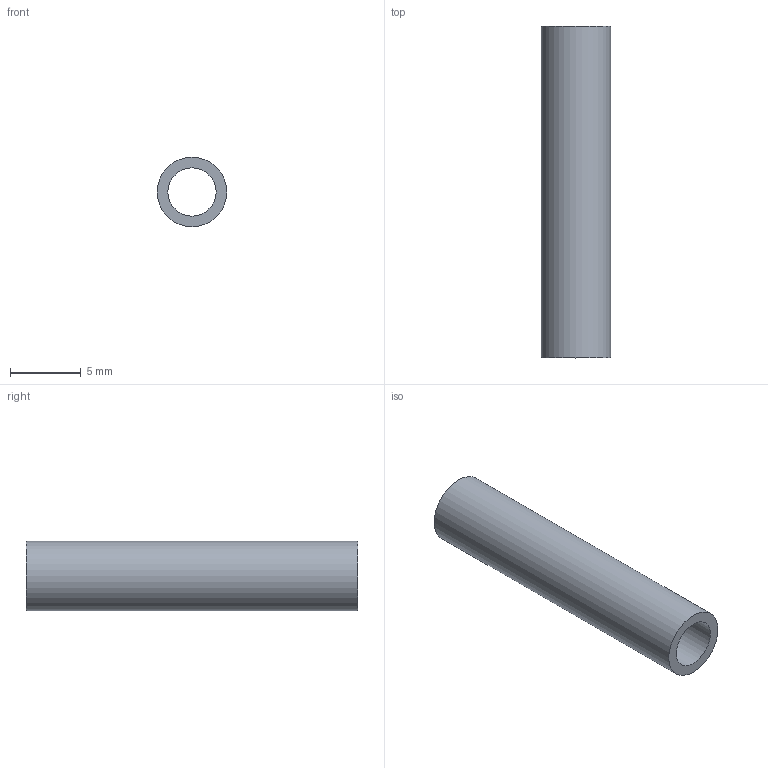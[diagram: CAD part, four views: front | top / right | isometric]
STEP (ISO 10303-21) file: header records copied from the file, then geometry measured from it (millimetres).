
FILE_DESCRIPTION(('Open CASCADE Model'),'2;1');
FILE_NAME('S02-distal_axle_sleeve.step', '', ('Noah Wilson'), (''), '', '', '');
FILE_SCHEMA(('AUTOMOTIVE_DESIGN { 1 0 10303 214 1 1 1 1 }'));
Length unit declared in the file: millimetre
Products named in the file (2): =>[0:1:1:2]; COMPOUND
Assembly tree (1 placements, depth 2):
  =>[0:1:1:2]
    COMPOUND
Bounding box: 4.9 x 23.4 x 4.9 mm (x, y, z)
Volume: 228.8 mm3; surface area: 629.7 mm2
Topology: 1 solids, 1 shells, 4 faces, 6 edges, 4 vertices
Faces by surface type: cylinder 2, plane 2
Full cylindrical faces by diameter (mm): 3.4 x1, 4.9 x1
Entity records: 204 total; most frequent: DIRECTION 34, CARTESIAN_POINT 28, ORIENTED_EDGE 12, PCURVE 12, DEFINITIONAL_REPRESENTATION 12, AXIS2_PLACEMENT_3D 10, LINE 10, VECTOR 10
